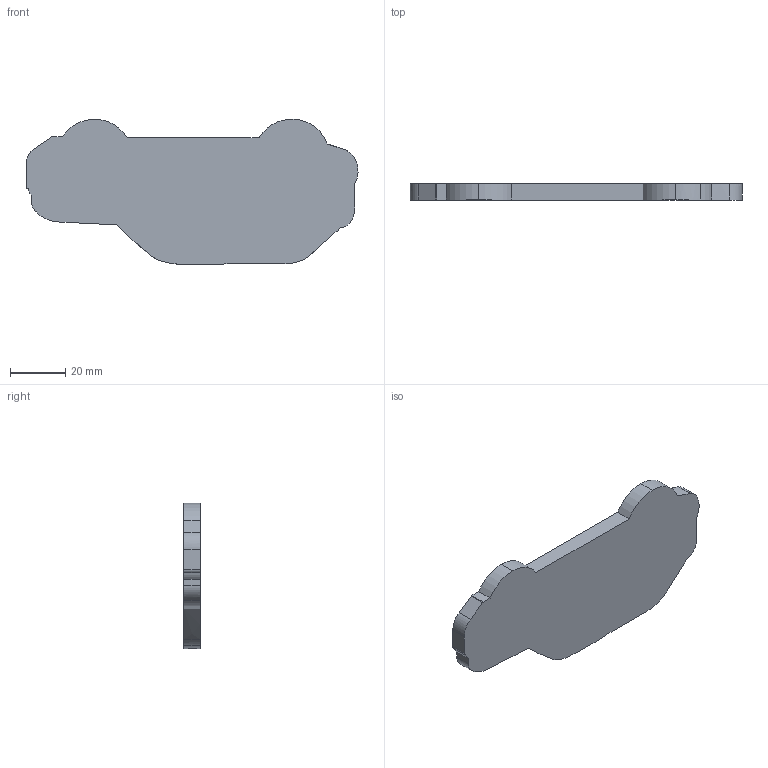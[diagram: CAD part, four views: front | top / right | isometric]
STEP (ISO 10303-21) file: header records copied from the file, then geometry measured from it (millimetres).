
FILE_DESCRIPTION (( 'STEP AP203' ), '1' );
FILE_NAME ('SAFARI COOKIE CUTTER.STEP', '2025-11-17T16:59:24', ( '' ), ( '' ), 'SwSTEP 2.0', 'SolidWorks 2024', '' );
FILE_SCHEMA (( 'CONFIG_CONTROL_DESIGN' ));
Length unit declared in the file: millimetre
Products named in the file (1): SAFARI COOKIE CUTTER
Bounding box: 120.17 x 5.88 x 52.69 mm (x, y, z)
Volume: 10291.2 mm3; surface area: 18524.3 mm2
Topology: 1 solids, 1 shells, 417 faces, 1147 edges, 764 vertices
Faces by surface type: plane 221, bspline 189, cylinder 7
Entity records: 16148 total; most frequent: CARTESIAN_POINT 6793, ORIENTED_EDGE 2294, DIRECTION 1208, EDGE_CURVE 1147, VERTEX_POINT 764, LINE 746, VECTOR 746, EDGE_LOOP 453
